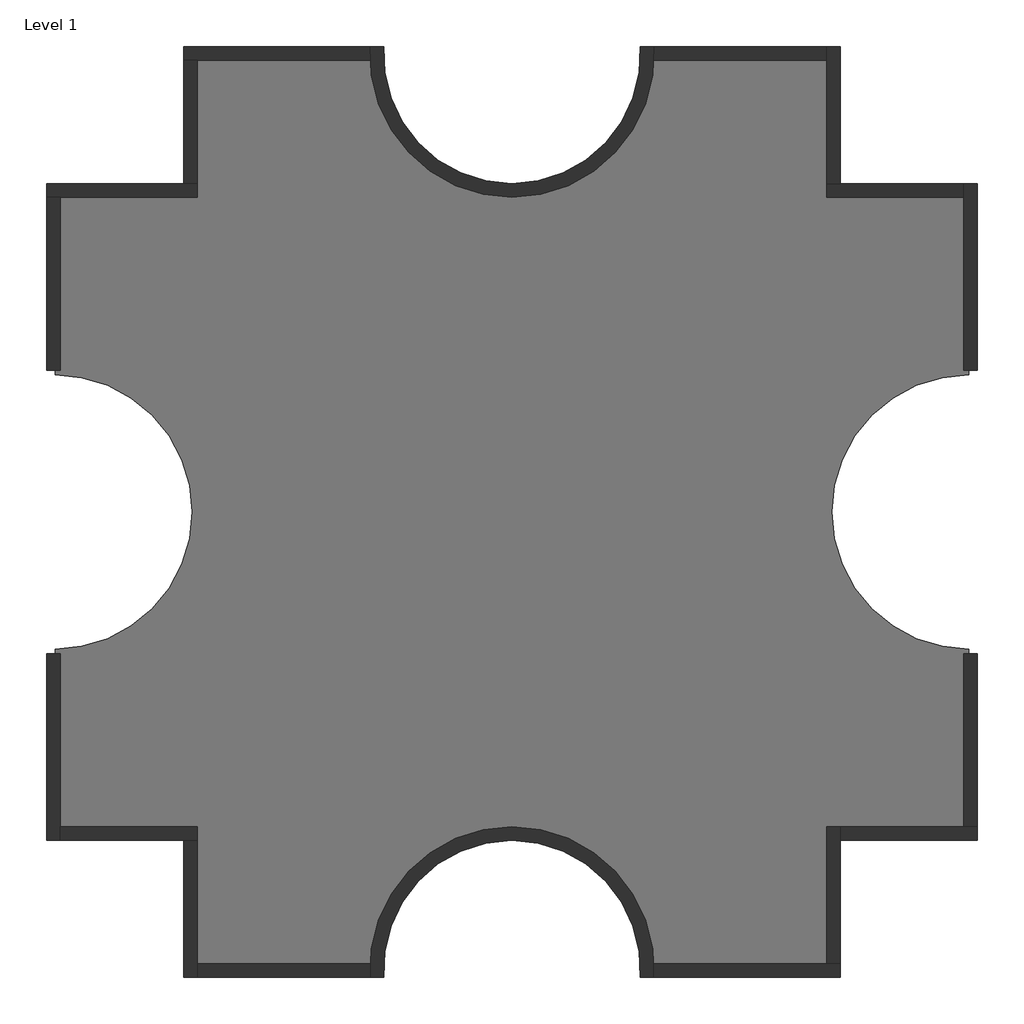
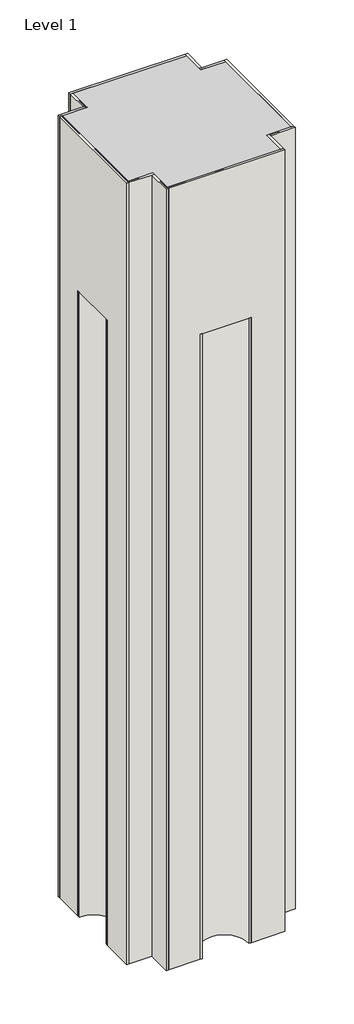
# One storey: 16 walls, 1 proxy.
"""IFC4 building model written with IfcOpenShell, lengths in millimetres."""

from ifc_helpers import new_model, si_unit, frame, origin, origin_with_axes, place, context, project, spatial, polyline, circle_curve, outline, extrude, faceted_brep, element, save
from ifc_brep_helpers import plane_surface, cylinder_surface, revolved_surface, advanced_brep

model = new_model("IFC4")

# Units and contexts
model_context = context("Model", 3, world=origin())
ifc_project = project(units=[si_unit("LENGTHUNIT", "METRE", prefix="MILLI")], contexts=[model_context])

# Site, building, storey
site = spatial("IfcSite", under=ifc_project)
building = spatial("IfcBuilding", under=site)
storey = spatial("IfcBuildingStorey", under=building, Name="Level 1", Elevation=0.0)

# Proxy
placement = place(None, origin())
element("IfcBuildingElementProxy", 1, Name="Mass 1 : Mass 1", ObjectType="Mass 1 : Mass 1", at=placement, inside=storey, context=model_context, shape_type="AdvancedBrep", body=[
    advanced_brep(
    [(-7150.3629456, 4479.6634547, 152400.0), (-11722.3629456, 4479.6634547, 152400.0), (-11722.3629456, -16856.3365453, 152400.0), (-7150.3629456, -16856.3365453, 152400.0), (-7150.3629456, -21428.3365453, 152400.0), (14185.6370544, -21428.3365453, 152400.0), (14185.6370544, -16856.3365453, 152400.0), (18757.6370544, -16856.3365453, 152400.0), (18757.6370544, 4479.6634547, 152400.0), (14185.6370544, 4479.6634547, 152400.0), (14185.6370544, 9051.6634547, 152400.0), (-7150.3629456, 9051.6634547, 152400.0), (-7150.3629456, 4479.6634547, 0.0), (-7150.3629456, 9051.6634547, 0.0), (-1054.3629456, 9051.6634547, 0.0), (8089.6370544, 9051.6634547, 0.0), (14185.6370544, 9051.6634547, 0.0), (14185.6370544, 4479.6634547, 0.0), (18757.6370544, 4479.6634547, 0.0), (18757.6370544, -1616.3365453, 0.0), (18757.6370544, -10760.3365453, 0.0), (18757.6370544, -16856.3365453, 0.0), (14185.6370544, -16856.3365453, 0.0), (14185.6370544, -21428.3365453, 0.0), (8089.6370544, -21428.3365453, 0.0), (-1054.3629456, -21428.3365453, 0.0), (-7150.3629456, -21428.3365453, 0.0), (-7150.3629456, -16856.3365453, 0.0), (-11722.3629456, -16856.3365453, 0.0), (-11722.3629456, -10760.3365453, 0.0), (-11722.3629456, -1616.3365453, 0.0), (-11722.3629456, 4479.6634547, 0.0), (-11722.3629456, -1616.3365453, 121920.0), (-11722.3629456, -10760.3365453, 121920.0), (-1054.3629456, -21428.3365453, 121920.0), (8089.6370544, -21428.3365453, 121920.0), (18757.6370544, -10760.3365453, 121920.0), (18757.6370544, -1616.3365453, 121920.0), (8089.6370544, 9051.6634547, 121920.0), (-1054.3629456, 9051.6634547, 121920.0)],
    [
        (0, 1),
        (1, 2),
        (2, 3),
        (3, 4),
        (4, 5),
        (5, 6),
        (6, 7),
        (7, 8),
        (8, 9),
        (9, 10),
        (10, 11),
        (11, 0),
        (12, 13),
        (13, 14),
        (14, 15, circle_curve(frame((3517.6370544, 9051.6634547, 0.0), z_axis=(0.0, 0.0, 1.0), x_axis=(0.0, 1.0, 0.0)), 4572.0)),
        (15, 16),
        (16, 17),
        (17, 18),
        (18, 19),
        (19, 20, circle_curve(frame((18757.6370544, -6188.3365453, 0.0), z_axis=(0.0, 0.0, 1.0), x_axis=(1.0, 0.0, 0.0)), 4572.0)),
        (20, 21),
        (21, 22),
        (22, 23),
        (23, 24),
        (24, 25, circle_curve(frame((3517.6370544, -21428.3365453, 0.0), z_axis=(0.0, 0.0, 1.0), x_axis=(0.0, -1.0, 0.0)), 4572.0)),
        (25, 26),
        (26, 27),
        (27, 28),
        (28, 29),
        (29, 30, circle_curve(frame((-11722.3629456, -6188.3365453, 0.0), z_axis=(0.0, 0.0, 1.0), x_axis=(-1.0, 0.0, 0.0)), 4572.0)),
        (30, 31),
        (31, 12),
        (0, 12),
        (31, 1),
        (30, 32),
        (32, 33),
        (33, 29),
        (28, 2),
        (27, 3),
        (26, 4),
        (25, 34),
        (34, 35),
        (35, 24),
        (23, 5),
        (22, 6),
        (21, 7),
        (20, 36),
        (36, 37),
        (37, 19),
        (18, 8),
        (17, 9),
        (16, 10),
        (15, 38),
        (38, 39),
        (39, 14),
        (13, 11),
        (36, 37, circle_curve(frame((18757.6370544, -6188.3365453, 121920.0), z_axis=(0.0, 0.0, -1.0), x_axis=(1.0, 0.0, 0.0)), 4572.0)),
        (34, 35, circle_curve(frame((3517.6370544, -21428.3365453, 121920.0), z_axis=(0.0, 0.0, -1.0), x_axis=(0.0, -1.0, 0.0)), 4572.0)),
        (38, 39, circle_curve(frame((3517.6370544, 9051.6634547, 121920.0), z_axis=(0.0, 0.0, -1.0), x_axis=(0.0, 1.0, 0.0)), 4572.0)),
        (32, 33, circle_curve(frame((-11722.3629456, -6188.3365453, 121920.0), z_axis=(0.0, 0.0, -1.0), x_axis=(-1.0, 0.0, 0.0)), 4572.0)),
    ],
    [
        plane_surface(frame((-11722.3629456, 4479.6634547, 152400.0), z_axis=(0.0, 0.0, 1.0), x_axis=(-1.0, 0.0, 0.0))),
        plane_surface(frame((-11722.3629456, 4479.6634547, 0.0), z_axis=(0.0, 0.0, -1.0), x_axis=(1.0, 0.0, 0.0))),
        plane_surface(frame((-7150.3629456, 4479.6634547, 152400.0), z_axis=(0.0, 1.0, 0.0), x_axis=(0.0, 0.0, -1.0))),
        plane_surface(frame((-11722.3629456, 4479.6634547, 152400.0), z_axis=(-1.0, 0.0, 0.0), x_axis=(0.0, 0.0, -1.0))),
        plane_surface(frame((-11722.3629456, -16856.3365453, 152400.0), z_axis=(0.0, -1.0, 0.0), x_axis=(0.0, 0.0, -1.0))),
        plane_surface(frame((-7150.3629456, -16856.3365453, 152400.0), z_axis=(-1.0, 0.0, 0.0), x_axis=(0.0, 0.0, -1.0))),
        plane_surface(frame((-7150.3629456, -21428.3365453, 152400.0), z_axis=(0.0, -1.0, 0.0), x_axis=(0.0, 0.0, -1.0))),
        plane_surface(frame((14185.6370544, -21428.3365453, 152400.0), z_axis=(1.0, 0.0, 0.0), x_axis=(0.0, 0.0, -1.0))),
        plane_surface(frame((14185.6370544, -16856.3365453, 152400.0), z_axis=(0.0, -1.0, 0.0), x_axis=(0.0, 0.0, -1.0))),
        plane_surface(frame((18757.6370544, -16856.3365453, 152400.0), z_axis=(1.0, 0.0, 0.0), x_axis=(0.0, 0.0, -1.0))),
        plane_surface(frame((18757.6370544, 4479.6634547, 152400.0), z_axis=(0.0, 1.0, 0.0), x_axis=(0.0, 0.0, -1.0))),
        plane_surface(frame((14185.6370544, 4479.6634547, 152400.0), z_axis=(1.0, 0.0, 0.0), x_axis=(0.0, 0.0, -1.0))),
        plane_surface(frame((14185.6370544, 9051.6634547, 152400.0), z_axis=(0.0, 1.0, 0.0), x_axis=(0.0, 0.0, -1.0))),
        plane_surface(frame((-7150.3629456, 9051.6634547, 152400.0), z_axis=(-1.0, 0.0, 0.0), x_axis=(0.0, 0.0, -1.0))),
        plane_surface(frame((18757.6370544, -10760.3365453, 121920.0), z_axis=(0.0, 0.0, -1.0), x_axis=(0.0, 1.0, 0.0))),
        revolved_surface(polyline([(23329.6370544, -6188.3365453, 121920.0), (23329.6370544, -6188.3365453, 0.0)]), (18757.6370544, -6188.3365453, 0.0), (0.0, 0.0, 1.0)),
        revolved_surface(polyline([(3517.6370544, -26000.3365453, 121920.0), (3517.6370544, -26000.3365453, 0.0)]), (3517.6370544, -21428.3365453, 0.0), (0.0, 0.0, 1.0)),
        revolved_surface(polyline([(3517.6370544, 13623.6634547, 121920.0), (3517.6370544, 13623.6634547, 0.0)]), (3517.6370544, 9051.6634547, 0.0), (0.0, 0.0, 1.0)),
        revolved_surface(polyline([(-16294.3629456, -6188.3365453, 121920.0), (-16294.3629456, -6188.3365453, 0.0)]), (-11722.3629456, -6188.3365453, 0.0), (0.0, 0.0, 1.0)),
    ],
    [
        (0, [[1, 2, 3, 4, 5, 6, 7, 8, 9, 10, 11, 12]]),
        (1, [[13, 14, 15, 16, 17, 18, 19, 20, 21, 22, 23, 24, 25, 26, 27, 28, 29, 30, 31, 32]]),
        (2, [[-1, 33, -32, 34]]),
        (3, [[-2, -34, -31, 35, 36, 37, -29, 38]]),
        (4, [[-3, -38, -28, 39]]),
        (5, [[-4, -39, -27, 40]]),
        (6, [[-5, -40, -26, 41, 42, 43, -24, 44]]),
        (7, [[-6, -44, -23, 45]]),
        (8, [[-7, -45, -22, 46]]),
        (9, [[-8, -46, -21, 47, 48, 49, -19, 50]]),
        (10, [[-9, -50, -18, 51]]),
        (11, [[-10, -51, -17, 52]]),
        (12, [[-11, -52, -16, 53, 54, 55, -14, 56]]),
        (13, [[-12, -56, -13, -33]]),
        (14, [[57, -48]]),
        (14, [[58, -42]]),
        (14, [[59, -54]]),
        (14, [[60, -36]]),
        (15, [[-57, -47, -20, -49]]),
        (16, [[-58, -41, -25, -43]]),
        (17, [[-59, -53, -15, -55]]),
        (18, [[-60, -35, -30, -37]]),
    ],
),
])

# Walls
element("IfcWall", 2, ObjectType="Exterior - CMU on Mtl. Stud", at=placement, inside=storey, context=model_context, shape_type="Brep", body=[
    faceted_brep([(-6985.2629456, 4768.5884547, 0.0), (-7439.2879456, 4768.5884547, 0.0), (-12011.2879456, 4768.5884547, 0.0), (-12011.2879456, 4768.5884547, 152400.0), (-7439.2879456, 4768.5884547, 152400.0), (-6985.2629456, 4768.5884547, 152400.0), (-6985.2629456, 4314.5634547, 0.0), (-6985.2629456, 4314.5634547, 152400.0), (-11557.2629456, 4314.5634547, 152400.0), (-12011.2879456, 4314.5634547, 152400.0), (-12011.2879456, 4314.5634547, 0.0), (-11557.2629456, 4314.5634547, 0.0)], [[[0, 1, 2, 3, 4, 5]], [[6, 7, 8, 9, 10, 11]], [[2, 1, 0, 6, 11, 10]], [[5, 4, 3, 9, 8, 7]], [[3, 2, 10, 9]], [[0, 5, 7, 6]]]),
])
element("IfcWall", 3, ObjectType="Exterior - CMU on Mtl. Stud", at=placement, inside=storey, context=model_context, shape_type="AdvancedBrep", body=[
    advanced_brep(
    [(-12011.2879456, 4314.5634547, 152400.0), (-12011.2879456, 4314.5634547, 0.0), (-12011.2879456, -1460.0558055, 0.0), (-12011.2879456, -1460.0558055, 121920.0), (-12011.2879456, -1915.0177179, 121920.0), (-12011.2879456, -10461.6553726, 121920.0), (-12011.2879456, -10916.6172851, 121920.0), (-12011.2879456, -10916.6172851, 0.0), (-12011.2879456, -17145.2615453, 0.0), (-12011.2879456, -17145.2615453, 152400.0), (-11557.2629456, 4314.5634547, 152400.0), (-11557.2629456, -16691.2365453, 152400.0), (-11557.2629456, -17145.2615453, 152400.0), (-11557.2629456, -17145.2615453, 0.0), (-11557.2629456, -16691.2365453, 0.0), (-11557.2629456, -10922.5585933, 0.0), (-11557.2629456, -10922.5585933, 121920.0), (-11557.2629456, -1454.1144972, 121920.0), (-11557.2629456, -1454.1144972, 0.0), (-11557.2629456, 4314.5634547, 0.0)],
    [
        (0, 1),
        (1, 2),
        (2, 3),
        (3, 4),
        (4, 5),
        (5, 6),
        (6, 7),
        (7, 8),
        (8, 9),
        (9, 0),
        (10, 11),
        (11, 12),
        (12, 13),
        (13, 14),
        (14, 15),
        (15, 16),
        (16, 17),
        (17, 18),
        (18, 19),
        (19, 10),
        (1, 19),
        (18, 2, circle_curve(frame((-11722.3629456, -6188.3365453, 0.0), z_axis=(0.0, 0.0, 1.0), x_axis=(-1.0, 0.0, 0.0)), 4737.1)),
        (3, 17, circle_curve(frame((-11722.3629456, -6188.3365453, 121920.0), z_axis=(0.0, 0.0, -1.0), x_axis=(-1.0, 0.0, 0.0)), 4737.1)),
        (16, 6, circle_curve(frame((-11722.3629456, -6188.3365453, 121920.0), z_axis=(0.0, 0.0, -1.0), x_axis=(-1.0, 0.0, 0.0)), 4737.1)),
        (7, 15, circle_curve(frame((-11722.3629456, -6188.3365453, 0.0), z_axis=(0.0, 0.0, 1.0), x_axis=(-1.0, 0.0, 0.0)), 4737.1)),
        (13, 8),
        (9, 12),
        (10, 0),
    ],
    [
        plane_surface(frame((-12011.2879456, 4541.5759547, 152400.0), z_axis=(-1.0, 0.0, 0.0), x_axis=(0.0, 0.0, -1.0))),
        plane_surface(frame((-11557.2629456, 4541.5759547, 152400.0), z_axis=(1.0, 0.0, 0.0), x_axis=(0.0, 0.0, 1.0))),
        plane_surface(frame((-12011.2879456, 4541.5759547, 0.0), z_axis=(0.0, 0.0, -1.0), x_axis=(1.0, 0.0, 0.0))),
        plane_surface(frame((-12011.2879456, -1678.6740191, 121920.0), z_axis=(0.0, 0.0, -1.0), x_axis=(1.0, 0.0, 0.0))),
        plane_surface(frame((-12011.2879456, -10697.9990714, 0.0), z_axis=(0.0, 0.0, -1.0), x_axis=(1.0, 0.0, 0.0))),
        plane_surface(frame((-12011.2879456, -16918.2490453, 152400.0), z_axis=(0.0, 0.0, 1.0), x_axis=(1.0, 0.0, 0.0))),
        plane_surface(frame((-11722.3629456, -17145.2615453, 0.0), z_axis=(0.0, -1.0, 0.0), x_axis=(1.0, 0.0, 0.0))),
        plane_surface(frame((-7150.3629456, 4314.5634547, 0.0), z_axis=(0.0, 1.0, 0.0), x_axis=(1.0, 0.0, 0.0))),
        revolved_surface(polyline([(-16459.4629456, -6188.3365453, 121920.0), (-16459.4629456, -6188.3365453, 0.0)]), (-11722.3629456, -6188.3365453, 0.0), (0.0, 0.0, 1.0)),
    ],
    [
        (0, [[1, 2, 3, 4, 5, 6, 7, 8, 9, 10]]),
        (1, [[11, 12, 13, 14, 15, 16, 17, 18, 19, 20]]),
        (2, [[-2, 21, -19, 22]]),
        (3, [[-6, -5, -4, 23, -17, 24]]),
        (4, [[-8, 25, -15, -14, 26]]),
        (5, [[-10, 27, -12, -11, 28]]),
        (6, [[-9, -26, -13, -27]]),
        (7, [[-1, -28, -20, -21]]),
        (8, [[-3, -22, -18, -23]]),
        (8, [[-7, -24, -16, -25]]),
    ],
),
])
element("IfcWall", 4, ObjectType="Exterior - CMU on Mtl. Stud", at=placement, inside=storey, context=model_context, shape_type="Brep", body=[
    faceted_brep([(-11557.2629456, -17145.2615453, 0.0), (-7439.2879456, -17145.2615453, 0.0), (-6985.2629456, -17145.2615453, 0.0), (-6985.2629456, -17145.2615453, 152400.0), (-7439.2879456, -17145.2615453, 152400.0), (-11557.2629456, -17145.2615453, 152400.0), (-11557.2629456, -16691.2365453, 0.0), (-11557.2629456, -16691.2365453, 152400.0), (-6985.2629456, -16691.2365453, 152400.0), (-6985.2629456, -16691.2365453, 0.0)], [[[0, 1, 2, 3, 4, 5]], [[6, 7, 8, 9]], [[2, 1, 0, 6, 9]], [[5, 4, 3, 8, 7]], [[3, 2, 9, 8]], [[0, 5, 7, 6]]]),
])
element("IfcWall", 5, ObjectType="Exterior - CMU on Mtl. Stud", at=placement, inside=storey, context=model_context, shape_type="Brep", body=[
    faceted_brep([(-7439.2879456, -17145.2615453, 0.0), (-7439.2879456, -21717.2615453, 0.0), (-7439.2879456, -21717.2615453, 152400.0), (-7439.2879456, -17145.2615453, 152400.0), (-6985.2629456, -17145.2615453, 0.0), (-6985.2629456, -17145.2615453, 152400.0), (-6985.2629456, -21263.2365453, 152400.0), (-6985.2629456, -21717.2615453, 152400.0), (-6985.2629456, -21717.2615453, 0.0), (-6985.2629456, -21263.2365453, 0.0)], [[[0, 1, 2, 3]], [[4, 5, 6, 7, 8, 9]], [[1, 0, 4, 9, 8]], [[3, 2, 7, 6, 5]], [[2, 1, 8, 7]], [[0, 3, 5, 4]]]),
])
element("IfcWall", 6, ObjectType="Exterior - CMU on Mtl. Stud", at=placement, inside=storey, context=model_context, shape_type="AdvancedBrep", body=[
    advanced_brep(
    [(-6985.2629456, -21717.2615453, 152400.0), (-6985.2629456, -21717.2615453, 0.0), (-1210.6436854, -21717.2615453, 0.0), (-1210.6436854, -21717.2615453, 121920.0), (-755.681773, -21717.2615453, 121920.0), (7790.9558817, -21717.2615453, 121920.0), (8245.9177942, -21717.2615453, 121920.0), (8245.9177942, -21717.2615453, 0.0), (14474.5620544, -21717.2615453, 0.0), (14474.5620544, -21717.2615453, 152400.0), (-6985.2629456, -21263.2365453, 152400.0), (14020.5370544, -21263.2365453, 152400.0), (14474.5620544, -21263.2365453, 152400.0), (14474.5620544, -21263.2365453, 0.0), (14020.5370544, -21263.2365453, 0.0), (8251.8591024, -21263.2365453, 0.0), (8251.8591024, -21263.2365453, 121920.0), (-1216.5849937, -21263.2365453, 121920.0), (-1216.5849937, -21263.2365453, 0.0), (-6985.2629456, -21263.2365453, 0.0)],
    [
        (0, 1),
        (1, 2),
        (2, 3),
        (3, 4),
        (4, 5),
        (5, 6),
        (6, 7),
        (7, 8),
        (8, 9),
        (9, 0),
        (10, 11),
        (11, 12),
        (12, 13),
        (13, 14),
        (14, 15),
        (15, 16),
        (16, 17),
        (17, 18),
        (18, 19),
        (19, 10),
        (1, 19),
        (18, 2, circle_curve(frame((3517.6370544, -21428.3365453, 0.0), z_axis=(0.0, 0.0, 1.0), x_axis=(0.0, -1.0, 0.0)), 4737.1)),
        (3, 17, circle_curve(frame((3517.6370544, -21428.3365453, 121920.0), z_axis=(0.0, 0.0, -1.0), x_axis=(0.0, -1.0, 0.0)), 4737.1)),
        (16, 6, circle_curve(frame((3517.6370544, -21428.3365453, 121920.0), z_axis=(0.0, 0.0, -1.0), x_axis=(0.0, -1.0, 0.0)), 4737.1)),
        (7, 15, circle_curve(frame((3517.6370544, -21428.3365453, 0.0), z_axis=(0.0, 0.0, 1.0), x_axis=(0.0, -1.0, 0.0)), 4737.1)),
        (13, 8),
        (9, 12),
        (10, 0),
    ],
    [
        plane_surface(frame((-7212.2754456, -21717.2615453, 152400.0), z_axis=(0.0, -1.0, 0.0), x_axis=(0.0, 0.0, -1.0))),
        plane_surface(frame((-7212.2754456, -21263.2365453, 152400.0), z_axis=(0.0, 1.0, 0.0), x_axis=(0.0, 0.0, 1.0))),
        plane_surface(frame((-7212.2754456, -21717.2615453, 0.0), z_axis=(0.0, 0.0, -1.0), x_axis=(0.0, 1.0, 0.0))),
        plane_surface(frame((-992.0254718, -21717.2615453, 121920.0), z_axis=(0.0, 0.0, -1.0), x_axis=(0.0, 1.0, 0.0))),
        plane_surface(frame((8027.2995805, -21717.2615453, 0.0), z_axis=(0.0, 0.0, -1.0), x_axis=(0.0, 1.0, 0.0))),
        plane_surface(frame((14247.5495544, -21717.2615453, 152400.0), z_axis=(0.0, 0.0, 1.0), x_axis=(0.0, 1.0, 0.0))),
        plane_surface(frame((14474.5620544, -21428.3365453, 0.0), z_axis=(1.0, 0.0, 0.0), x_axis=(0.0, 1.0, 0.0))),
        plane_surface(frame((-6985.2629456, -16856.3365453, 0.0), z_axis=(-1.0, 0.0, 0.0), x_axis=(0.0, 1.0, 0.0))),
        revolved_surface(polyline([(3517.6370544, -26165.4365453, 121920.0), (3517.6370544, -26165.4365453, 0.0)]), (3517.6370544, -21428.3365453, 0.0), (0.0, 0.0, 1.0)),
    ],
    [
        (0, [[1, 2, 3, 4, 5, 6, 7, 8, 9, 10]]),
        (1, [[11, 12, 13, 14, 15, 16, 17, 18, 19, 20]]),
        (2, [[-2, 21, -19, 22]]),
        (3, [[-6, -5, -4, 23, -17, 24]]),
        (4, [[-8, 25, -15, -14, 26]]),
        (5, [[-10, 27, -12, -11, 28]]),
        (6, [[-9, -26, -13, -27]]),
        (7, [[-1, -28, -20, -21]]),
        (8, [[-3, -22, -18, -23]]),
        (8, [[-7, -24, -16, -25]]),
    ],
),
])
element("IfcWall", 7, ObjectType="Exterior - CMU on Mtl. Stud", at=placement, inside=storey, context=model_context, shape_type="Brep", body=[
    faceted_brep([(14474.5620544, -21263.2365453, 0.0), (14474.5620544, -17145.2615453, 0.0), (14474.5620544, -16691.2365453, 0.0), (14474.5620544, -16691.2365453, 152400.0), (14474.5620544, -17145.2615453, 152400.0), (14474.5620544, -21263.2365453, 152400.0), (14020.5370544, -21263.2365453, 0.0), (14020.5370544, -21263.2365453, 152400.0), (14020.5370544, -16691.2365453, 152400.0), (14020.5370544, -16691.2365453, 0.0)], [[[0, 1, 2, 3, 4, 5]], [[6, 7, 8, 9]], [[2, 1, 0, 6, 9]], [[5, 4, 3, 8, 7]], [[3, 2, 9, 8]], [[0, 5, 7, 6]]]),
])
element("IfcWall", 8, ObjectType="Exterior - CMU on Mtl. Stud", at=placement, inside=storey, context=model_context, shape_type="Brep", body=[
    faceted_brep([(14474.5620544, -17145.2615453, 0.0), (19046.5620544, -17145.2615453, 0.0), (19046.5620544, -17145.2615453, 152400.0), (14474.5620544, -17145.2615453, 152400.0), (14474.5620544, -16691.2365453, 0.0), (14474.5620544, -16691.2365453, 152400.0), (18592.5370544, -16691.2365453, 152400.0), (19046.5620544, -16691.2365453, 152400.0), (19046.5620544, -16691.2365453, 0.0), (18592.5370544, -16691.2365453, 0.0)], [[[0, 1, 2, 3]], [[4, 5, 6, 7, 8, 9]], [[1, 0, 4, 9, 8]], [[3, 2, 7, 6, 5]], [[2, 1, 8, 7]], [[0, 3, 5, 4]]]),
])
element("IfcWall", 9, ObjectType="Exterior - CMU on Mtl. Stud", at=placement, inside=storey, context=model_context, shape_type="AdvancedBrep", body=[
    advanced_brep(
    [(19046.5620544, -16691.2365453, 152400.0), (19046.5620544, -16691.2365453, 0.0), (19046.5620544, -10916.6172851, 0.0), (19046.5620544, -10916.6172851, 121920.0), (19046.5620544, -10461.6553726, 121920.0), (19046.5620544, -1915.0177179, 121920.0), (19046.5620544, -1460.0558055, 121920.0), (19046.5620544, -1460.0558055, 0.0), (19046.5620544, 4768.5884547, 0.0), (19046.5620544, 4768.5884547, 152400.0), (18592.5370544, -16691.2365453, 152400.0), (18592.5370544, 4314.5634547, 152400.0), (18592.5370544, 4768.5884547, 152400.0), (18592.5370544, 4768.5884547, 0.0), (18592.5370544, 4314.5634547, 0.0), (18592.5370544, -1454.1144972, 0.0), (18592.5370544, -1454.1144972, 121920.0), (18592.5370544, -10922.5585933, 121920.0), (18592.5370544, -10922.5585933, 0.0), (18592.5370544, -16691.2365453, 0.0)],
    [
        (0, 1),
        (1, 2),
        (2, 3),
        (3, 4),
        (4, 5),
        (5, 6),
        (6, 7),
        (7, 8),
        (8, 9),
        (9, 0),
        (10, 11),
        (11, 12),
        (12, 13),
        (13, 14),
        (14, 15),
        (15, 16),
        (16, 17),
        (17, 18),
        (18, 19),
        (19, 10),
        (1, 19),
        (18, 2, circle_curve(frame((18757.6370544, -6188.3365453, 0.0), z_axis=(0.0, 0.0, 1.0), x_axis=(1.0, 0.0, 0.0)), 4737.1)),
        (3, 17, circle_curve(frame((18757.6370544, -6188.3365453, 121920.0), z_axis=(0.0, 0.0, -1.0), x_axis=(1.0, 0.0, 0.0)), 4737.1)),
        (16, 6, circle_curve(frame((18757.6370544, -6188.3365453, 121920.0), z_axis=(0.0, 0.0, -1.0), x_axis=(1.0, 0.0, 0.0)), 4737.1)),
        (7, 15, circle_curve(frame((18757.6370544, -6188.3365453, 0.0), z_axis=(0.0, 0.0, 1.0), x_axis=(1.0, 0.0, 0.0)), 4737.1)),
        (13, 8),
        (9, 12),
        (10, 0),
    ],
    [
        plane_surface(frame((19046.5620544, -16918.2490453, 152400.0), z_axis=(1.0, 0.0, 0.0), x_axis=(0.0, 0.0, -1.0))),
        plane_surface(frame((18592.5370544, -16918.2490453, 152400.0), z_axis=(-1.0, 0.0, 0.0), x_axis=(0.0, 0.0, 1.0))),
        plane_surface(frame((19046.5620544, -16918.2490453, 0.0), z_axis=(0.0, 0.0, -1.0), x_axis=(-1.0, 0.0, 0.0))),
        plane_surface(frame((19046.5620544, -10697.9990714, 121920.0), z_axis=(0.0, 0.0, -1.0), x_axis=(-1.0, 0.0, 0.0))),
        plane_surface(frame((19046.5620544, -1678.6740191, 0.0), z_axis=(0.0, 0.0, -1.0), x_axis=(-1.0, 0.0, 0.0))),
        plane_surface(frame((19046.5620544, 4541.5759547, 152400.0), z_axis=(0.0, 0.0, 1.0), x_axis=(-1.0, 0.0, 0.0))),
        plane_surface(frame((18757.6370544, 4768.5884547, 0.0), z_axis=(0.0, 1.0, 0.0), x_axis=(-1.0, 0.0, 0.0))),
        plane_surface(frame((14185.6370544, -16691.2365453, 0.0), z_axis=(0.0, -1.0, 0.0), x_axis=(-1.0, 0.0, 0.0))),
        revolved_surface(polyline([(23494.7370544, -6188.3365453, 121920.0), (23494.7370544, -6188.3365453, 0.0)]), (18757.6370544, -6188.3365453, 0.0), (0.0, 0.0, 1.0)),
    ],
    [
        (0, [[1, 2, 3, 4, 5, 6, 7, 8, 9, 10]]),
        (1, [[11, 12, 13, 14, 15, 16, 17, 18, 19, 20]]),
        (2, [[-2, 21, -19, 22]]),
        (3, [[-6, -5, -4, 23, -17, 24]]),
        (4, [[-8, 25, -15, -14, 26]]),
        (5, [[-10, 27, -12, -11, 28]]),
        (6, [[-9, -26, -13, -27]]),
        (7, [[-1, -28, -20, -21]]),
        (8, [[-3, -22, -18, -23]]),
        (8, [[-7, -24, -16, -25]]),
    ],
),
])
element("IfcWall", 10, ObjectType="Exterior - CMU on Mtl. Stud", at=placement, inside=storey, context=model_context, shape_type="Brep", body=[
    faceted_brep([(18592.5370544, 4768.5884547, 0.0), (14474.5620544, 4768.5884547, 0.0), (14020.5370544, 4768.5884547, 0.0), (14020.5370544, 4768.5884547, 152400.0), (14474.5620544, 4768.5884547, 152400.0), (18592.5370544, 4768.5884547, 152400.0), (18592.5370544, 4314.5634547, 0.0), (18592.5370544, 4314.5634547, 152400.0), (14020.5370544, 4314.5634547, 152400.0), (14020.5370544, 4314.5634547, 0.0)], [[[0, 1, 2, 3, 4, 5]], [[6, 7, 8, 9]], [[2, 1, 0, 6, 9]], [[5, 4, 3, 8, 7]], [[3, 2, 9, 8]], [[0, 5, 7, 6]]]),
])
element("IfcWall", 11, ObjectType="Exterior - CMU on Mtl. Stud", at=placement, inside=storey, context=model_context, shape_type="Brep", body=[
    faceted_brep([(14474.5620544, 4768.5884547, 0.0), (14474.5620544, 9340.5884547, 0.0), (14474.5620544, 9340.5884547, 152400.0), (14474.5620544, 4768.5884547, 152400.0), (14020.5370544, 4768.5884547, 0.0), (14020.5370544, 4768.5884547, 152400.0), (14020.5370544, 8886.5634547, 152400.0), (14020.5370544, 9340.5884547, 152400.0), (14020.5370544, 9340.5884547, 0.0), (14020.5370544, 8886.5634547, 0.0)], [[[0, 1, 2, 3]], [[4, 5, 6, 7, 8, 9]], [[1, 0, 4, 9, 8]], [[3, 2, 7, 6, 5]], [[2, 1, 8, 7]], [[0, 3, 5, 4]]]),
])
element("IfcWall", 12, ObjectType="Exterior - CMU on Mtl. Stud", at=placement, inside=storey, context=model_context, shape_type="AdvancedBrep", body=[
    advanced_brep(
    [(14020.5370544, 9340.5884547, 152400.0), (14020.5370544, 9340.5884547, 0.0), (8245.9177942, 9340.5884547, 0.0), (8245.9177942, 9340.5884547, 121920.0), (7790.9558817, 9340.5884547, 121920.0), (-755.681773, 9340.5884547, 121920.0), (-1210.6436854, 9340.5884547, 121920.0), (-1210.6436854, 9340.5884547, 0.0), (-7439.2879456, 9340.5884547, 0.0), (-7439.2879456, 9340.5884547, 152400.0), (14020.5370544, 8886.5634547, 152400.0), (-6985.2629456, 8886.5634547, 152400.0), (-7439.2879456, 8886.5634547, 152400.0), (-7439.2879456, 8886.5634547, 0.0), (-6985.2629456, 8886.5634547, 0.0), (-1216.5849937, 8886.5634547, 0.0), (-1216.5849937, 8886.5634547, 121920.0), (8251.8591024, 8886.5634547, 121920.0), (8251.8591024, 8886.5634547, 0.0), (14020.5370544, 8886.5634547, 0.0)],
    [
        (0, 1),
        (1, 2),
        (2, 3),
        (3, 4),
        (4, 5),
        (5, 6),
        (6, 7),
        (7, 8),
        (8, 9),
        (9, 0),
        (10, 11),
        (11, 12),
        (12, 13),
        (13, 14),
        (14, 15),
        (15, 16),
        (16, 17),
        (17, 18),
        (18, 19),
        (19, 10),
        (1, 19),
        (18, 2, circle_curve(frame((3517.6370544, 9051.6634547, 0.0), z_axis=(0.0, 0.0, 1.0), x_axis=(0.0, 1.0, 0.0)), 4737.1)),
        (3, 17, circle_curve(frame((3517.6370544, 9051.6634547, 121920.0), z_axis=(0.0, 0.0, -1.0), x_axis=(0.0, 1.0, 0.0)), 4737.1)),
        (16, 6, circle_curve(frame((3517.6370544, 9051.6634547, 121920.0), z_axis=(0.0, 0.0, -1.0), x_axis=(0.0, 1.0, 0.0)), 4737.1)),
        (7, 15, circle_curve(frame((3517.6370544, 9051.6634547, 0.0), z_axis=(0.0, 0.0, 1.0), x_axis=(0.0, 1.0, 0.0)), 4737.1)),
        (13, 8),
        (9, 12),
        (10, 0),
    ],
    [
        plane_surface(frame((14247.5495544, 9340.5884547, 152400.0), z_axis=(0.0, 1.0, 0.0), x_axis=(0.0, 0.0, -1.0))),
        plane_surface(frame((14247.5495544, 8886.5634547, 152400.0), z_axis=(0.0, -1.0, 0.0), x_axis=(0.0, 0.0, 1.0))),
        plane_surface(frame((14247.5495544, 9340.5884547, 0.0), z_axis=(0.0, 0.0, -1.0), x_axis=(0.0, -1.0, 0.0))),
        plane_surface(frame((8027.2995805, 9340.5884547, 121920.0), z_axis=(0.0, 0.0, -1.0), x_axis=(0.0, -1.0, 0.0))),
        plane_surface(frame((-992.0254718, 9340.5884547, 0.0), z_axis=(0.0, 0.0, -1.0), x_axis=(0.0, -1.0, 0.0))),
        plane_surface(frame((-7212.2754456, 9340.5884547, 152400.0), z_axis=(0.0, 0.0, 1.0), x_axis=(0.0, -1.0, 0.0))),
        plane_surface(frame((-7439.2879456, 9051.6634547, 0.0), z_axis=(-1.0, 0.0, 0.0), x_axis=(0.0, -1.0, 0.0))),
        plane_surface(frame((14020.5370544, 4479.6634547, 0.0), z_axis=(1.0, 0.0, 0.0), x_axis=(0.0, -1.0, 0.0))),
        revolved_surface(polyline([(3517.6370544, 13788.7634547, 121920.0), (3517.6370544, 13788.7634547, 0.0)]), (3517.6370544, 9051.6634547, 0.0), (0.0, 0.0, 1.0)),
    ],
    [
        (0, [[1, 2, 3, 4, 5, 6, 7, 8, 9, 10]]),
        (1, [[11, 12, 13, 14, 15, 16, 17, 18, 19, 20]]),
        (2, [[-2, 21, -19, 22]]),
        (3, [[-6, -5, -4, 23, -17, 24]]),
        (4, [[-8, 25, -15, -14, 26]]),
        (5, [[-10, 27, -12, -11, 28]]),
        (6, [[-9, -26, -13, -27]]),
        (7, [[-1, -28, -20, -21]]),
        (8, [[-3, -22, -18, -23]]),
        (8, [[-7, -24, -16, -25]]),
    ],
),
])
element("IfcWall", 13, ObjectType="Exterior - CMU on Mtl. Stud", at=placement, inside=storey, context=model_context, shape_type="SweptSolid", body=[
    extrude(outline(polyline([(-7439.2879456, 4768.5884547), (-7439.2879456, 8886.5634547), (-6985.2629456, 8886.5634547), (-6985.2629456, 4768.5884547), (-7439.2879456, 4768.5884547)])), origin_with_axes(), (0.0, 0.0, 1.0), 152400.0),
])
element("IfcWall", 14, ObjectType="Exterior - CMU on Mtl. Stud", at=placement, inside=storey, context=model_context, shape_type="AdvancedBrep", body=[
    advanced_brep(
    [(19046.5620544, -10461.6553726, 121920.0), (19046.5620544, -1915.0177179, 121920.0), (19046.5620544, -1460.0558055, 121920.0), (18592.5272967, -1454.1150433, 121920.0), (18592.5271824, -10922.5581076, 121920.0), (19046.5620544, -10916.6172851, 121920.0), (19046.5620544, -10461.6553726, 0.0), (19046.5620544, -10916.6172851, 0.0), (18592.5271824, -10922.5581076, 0.0), (18592.5272967, -1454.1150433, 0.0), (19046.5620544, -1460.0558055, 0.0), (19046.5620544, -1915.0177179, 0.0)],
    [
        (0, 1, circle_curve(frame((18757.6370544, -6188.3365453, 121920.0), z_axis=(0.0, 0.0, -1.0), x_axis=(1.0, 0.0, 0.0)), 4283.075)),
        (1, 2),
        (2, 3, circle_curve(frame((18757.6370544, -6188.3365453, 121920.0), z_axis=(0.0, 0.0, 1.0), x_axis=(1.0, 0.0, 0.0)), 4737.1)),
        (3, 4, circle_curve(frame((18757.6370544, -6188.3365453, 121920.0), z_axis=(0.0, 0.0, 1.0), x_axis=(1.0, 0.0, 0.0)), 4737.0997944)),
        (4, 5, circle_curve(frame((18757.6370544, -6188.3365453, 121920.0), z_axis=(0.0, 0.0, 1.0), x_axis=(1.0, 0.0, 0.0)), 4737.0998587)),
        (5, 0),
        (6, 7),
        (7, 8, circle_curve(frame((18757.6370544, -6188.3365453, 0.0), z_axis=(0.0, 0.0, -1.0), x_axis=(1.0, 0.0, 0.0)), 4737.1)),
        (8, 9, circle_curve(frame((18757.6370544, -6188.3365453, 0.0), z_axis=(0.0, 0.0, -1.0), x_axis=(1.0, 0.0, 0.0)), 4737.0998587)),
        (9, 10, circle_curve(frame((18757.6370544, -6188.3365453, 0.0), z_axis=(0.0, 0.0, -1.0), x_axis=(1.0, 0.0, 0.0)), 4737.0997944)),
        (10, 11),
        (11, 6, circle_curve(frame((18757.6370544, -6188.3365453, 0.0), z_axis=(0.0, 0.0, 1.0), x_axis=(1.0, 0.0, 0.0)), 4283.075)),
        (0, 6),
        (11, 1),
        (2, 10),
        (7, 5),
    ],
    [
        plane_surface(frame((23040.7120544, -6188.3365453, 121920.0), z_axis=(0.0, 0.0, 1.0), x_axis=(0.0, -1.0, 0.0))),
        plane_surface(frame((23040.7120544, -6188.3365453, 0.0), z_axis=(0.0, 0.0, -1.0), x_axis=(0.0, 1.0, 0.0))),
        revolved_surface(polyline([(23040.7120544, -6188.3365453, 0.0), (23040.7120544, -6188.3365453, 121920.0)]), (18757.6370544, -6188.3365453, 0.0), (0.0, 0.0, -1.0)),
        cylinder_surface(frame((18757.6370544, -6188.3365453, 0.0), z_axis=(0.0, 0.0, 1.0), x_axis=(1.0, 0.0, 0.0)), 4737.1),
        plane_surface(frame((19046.5620544, -16918.2490453, 152400.0), z_axis=(1.0, 0.0, 0.0), x_axis=(0.0, 0.0, -1.0))),
    ],
    [
        (0, [[1, 2, 3, 4, 5, 6]]),
        (1, [[7, 8, 9, 10, 11, 12]]),
        (2, [[-1, 13, -12, 14]]),
        (3, [[-5, -4, -3, 15, -10, -9, -8, 16]]),
        (4, [[-6, -16, -7, -13]]),
        (4, [[-2, -14, -11, -15]]),
    ],
),
])
element("IfcWall", 15, ObjectType="Exterior - CMU on Mtl. Stud", at=placement, inside=storey, context=model_context, shape_type="AdvancedBrep", body=[
    advanced_brep(
    [(-755.681773, -21717.2615453, 121920.0), (7790.9558817, -21717.2615453, 121920.0), (8245.9177942, -21717.2615453, 121920.0), (8251.8585564, -21263.2267876, 121920.0), (-1216.584508, -21263.2266733, 121920.0), (-1210.6436854, -21717.2615453, 121920.0), (-755.681773, -21717.2615453, 0.0), (-1210.6436854, -21717.2615453, 0.0), (-1216.584508, -21263.2266733, 0.0), (8251.8585564, -21263.2267876, 0.0), (8245.9177942, -21717.2615453, 0.0), (7790.9558817, -21717.2615453, 0.0)],
    [
        (0, 1, circle_curve(frame((3517.6370544, -21428.3365453, 121920.0), z_axis=(0.0, 0.0, -1.0), x_axis=(0.0, -1.0, 0.0)), 4283.075)),
        (1, 2),
        (2, 3, circle_curve(frame((3517.6370544, -21428.3365453, 121920.0), z_axis=(0.0, 0.0, 1.0), x_axis=(0.0, -1.0, 0.0)), 4737.1)),
        (3, 4, circle_curve(frame((3517.6370544, -21428.3365453, 121920.0), z_axis=(0.0, 0.0, 1.0), x_axis=(0.0, -1.0, 0.0)), 4737.0997944)),
        (4, 5, circle_curve(frame((3517.6370544, -21428.3365453, 121920.0), z_axis=(0.0, 0.0, 1.0), x_axis=(0.0, -1.0, 0.0)), 4737.0998587)),
        (5, 0),
        (6, 7),
        (7, 8, circle_curve(frame((3517.6370544, -21428.3365453, 0.0), z_axis=(0.0, 0.0, -1.0), x_axis=(0.0, -1.0, 0.0)), 4737.1)),
        (8, 9, circle_curve(frame((3517.6370544, -21428.3365453, 0.0), z_axis=(0.0, 0.0, -1.0), x_axis=(0.0, -1.0, 0.0)), 4737.0998587)),
        (9, 10, circle_curve(frame((3517.6370544, -21428.3365453, 0.0), z_axis=(0.0, 0.0, -1.0), x_axis=(0.0, -1.0, 0.0)), 4737.0997944)),
        (10, 11),
        (11, 6, circle_curve(frame((3517.6370544, -21428.3365453, 0.0), z_axis=(0.0, 0.0, 1.0), x_axis=(0.0, -1.0, 0.0)), 4283.075)),
        (0, 6),
        (11, 1),
        (2, 10),
        (7, 5),
    ],
    [
        plane_surface(frame((3517.6370544, -25711.4115453, 121920.0), z_axis=(0.0, 0.0, 1.0), x_axis=(-1.0, 0.0, 0.0))),
        plane_surface(frame((3517.6370544, -25711.4115453, 0.0), z_axis=(0.0, 0.0, -1.0), x_axis=(1.0, 0.0, 0.0))),
        revolved_surface(polyline([(3517.6370544, -25711.4115453, 0.0), (3517.6370544, -25711.4115453, 121920.0)]), (3517.6370544, -21428.3365453, 0.0), (0.0, 0.0, -1.0)),
        cylinder_surface(frame((3517.6370544, -21428.3365453, 0.0), z_axis=(0.0, 0.0, 1.0), x_axis=(0.0, -1.0, 0.0)), 4737.1),
        plane_surface(frame((-7212.2754456, -21717.2615453, 152400.0), z_axis=(0.0, -1.0, 0.0), x_axis=(0.0, 0.0, -1.0))),
    ],
    [
        (0, [[1, 2, 3, 4, 5, 6]]),
        (1, [[7, 8, 9, 10, 11, 12]]),
        (2, [[-1, 13, -12, 14]]),
        (3, [[-5, -4, -3, 15, -10, -9, -8, 16]]),
        (4, [[-6, -16, -7, -13]]),
        (4, [[-2, -14, -11, -15]]),
    ],
),
])
element("IfcWall", 16, ObjectType="Exterior - CMU on Mtl. Stud", at=placement, inside=storey, context=model_context, shape_type="AdvancedBrep", body=[
    advanced_brep(
    [(7790.9558817, 9340.5884547, 121920.0), (-755.681773, 9340.5884547, 121920.0), (-1210.6436854, 9340.5884547, 121920.0), (-1216.5844476, 8886.553697, 121920.0), (8251.8586167, 8886.5535827, 121920.0), (8245.9177942, 9340.5884547, 121920.0), (7790.9558817, 9340.5884547, 0.0), (8245.9177942, 9340.5884547, 0.0), (8251.8586167, 8886.5535827, 0.0), (-1216.5844476, 8886.553697, 0.0), (-1210.6436854, 9340.5884547, 0.0), (-755.681773, 9340.5884547, 0.0)],
    [
        (0, 1, circle_curve(frame((3517.6370544, 9051.6634547, 121920.0), z_axis=(0.0, 0.0, -1.0), x_axis=(0.0, 1.0, 0.0)), 4283.075)),
        (1, 2),
        (2, 3, circle_curve(frame((3517.6370544, 9051.6634547, 121920.0), z_axis=(0.0, 0.0, 1.0), x_axis=(0.0, 1.0, 0.0)), 4737.1)),
        (3, 4, circle_curve(frame((3517.6370544, 9051.6634547, 121920.0), z_axis=(0.0, 0.0, 1.0), x_axis=(0.0, 1.0, 0.0)), 4737.0997944)),
        (4, 5, circle_curve(frame((3517.6370544, 9051.6634547, 121920.0), z_axis=(0.0, 0.0, 1.0), x_axis=(0.0, 1.0, 0.0)), 4737.0998587)),
        (5, 0),
        (6, 7),
        (7, 8, circle_curve(frame((3517.6370544, 9051.6634547, 0.0), z_axis=(0.0, 0.0, -1.0), x_axis=(0.0, 1.0, 0.0)), 4737.1)),
        (8, 9, circle_curve(frame((3517.6370544, 9051.6634547, 0.0), z_axis=(0.0, 0.0, -1.0), x_axis=(0.0, 1.0, 0.0)), 4737.0998587)),
        (9, 10, circle_curve(frame((3517.6370544, 9051.6634547, 0.0), z_axis=(0.0, 0.0, -1.0), x_axis=(0.0, 1.0, 0.0)), 4737.0997944)),
        (10, 11),
        (11, 6, circle_curve(frame((3517.6370544, 9051.6634547, 0.0), z_axis=(0.0, 0.0, 1.0), x_axis=(0.0, 1.0, 0.0)), 4283.075)),
        (0, 6),
        (11, 1),
        (2, 10),
        (7, 5),
    ],
    [
        plane_surface(frame((3517.6370544, 13334.7384547, 121920.0), z_axis=(0.0, 0.0, 1.0), x_axis=(1.0, 0.0, 0.0))),
        plane_surface(frame((3517.6370544, 13334.7384547, 0.0), z_axis=(0.0, 0.0, -1.0), x_axis=(-1.0, 0.0, 0.0))),
        revolved_surface(polyline([(3517.6370544, 13334.7384547, 0.0), (3517.6370544, 13334.7384547, 121920.0)]), (3517.6370544, 9051.6634547, 0.0), (0.0, 0.0, -1.0)),
        cylinder_surface(frame((3517.6370544, 9051.6634547, 0.0), z_axis=(0.0, 0.0, 1.0), x_axis=(0.0, 1.0, 0.0)), 4737.1),
        plane_surface(frame((14247.5495544, 9340.5884547, 152400.0), z_axis=(0.0, 1.0, 0.0), x_axis=(0.0, 0.0, -1.0))),
    ],
    [
        (0, [[1, 2, 3, 4, 5, 6]]),
        (1, [[7, 8, 9, 10, 11, 12]]),
        (2, [[-1, 13, -12, 14]]),
        (3, [[-5, -4, -3, 15, -10, -9, -8, 16]]),
        (4, [[-6, -16, -7, -13]]),
        (4, [[-2, -14, -11, -15]]),
    ],
),
])
element("IfcWall", 17, ObjectType="Exterior - CMU on Mtl. Stud", at=placement, inside=storey, context=model_context, shape_type="AdvancedBrep", body=[
    advanced_brep(
    [(-12011.2879456, -1915.0177179, 121920.0), (-12011.2879456, -10461.6553726, 121920.0), (-12011.2879456, -10916.6172851, 121920.0), (-11557.2531879, -10922.5580473, 121920.0), (-11557.2530736, -1454.1149829, 121920.0), (-12011.2879456, -1460.0558055, 121920.0), (-12011.2879456, -1915.0177179, 0.0), (-12011.2879456, -1460.0558055, 0.0), (-11557.2530736, -1454.1149829, 0.0), (-11557.2531879, -10922.5580473, 0.0), (-12011.2879456, -10916.6172851, 0.0), (-12011.2879456, -10461.6553726, 0.0)],
    [
        (0, 1, circle_curve(frame((-11722.3629456, -6188.3365453, 121920.0), z_axis=(0.0, 0.0, -1.0), x_axis=(-1.0, 0.0, 0.0)), 4283.075)),
        (1, 2),
        (2, 3, circle_curve(frame((-11722.3629456, -6188.3365453, 121920.0), z_axis=(0.0, 0.0, 1.0), x_axis=(-1.0, 0.0, 0.0)), 4737.1)),
        (3, 4, circle_curve(frame((-11722.3629456, -6188.3365453, 121920.0), z_axis=(0.0, 0.0, 1.0), x_axis=(-1.0, 0.0, 0.0)), 4737.0997944)),
        (4, 5, circle_curve(frame((-11722.3629456, -6188.3365453, 121920.0), z_axis=(0.0, 0.0, 1.0), x_axis=(-1.0, 0.0, 0.0)), 4737.0998587)),
        (5, 0),
        (6, 7),
        (7, 8, circle_curve(frame((-11722.3629456, -6188.3365453, 0.0), z_axis=(0.0, 0.0, -1.0), x_axis=(-1.0, 0.0, 0.0)), 4737.1)),
        (8, 9, circle_curve(frame((-11722.3629456, -6188.3365453, 0.0), z_axis=(0.0, 0.0, -1.0), x_axis=(-1.0, 0.0, 0.0)), 4737.0998587)),
        (9, 10, circle_curve(frame((-11722.3629456, -6188.3365453, 0.0), z_axis=(0.0, 0.0, -1.0), x_axis=(-1.0, 0.0, 0.0)), 4737.0997944)),
        (10, 11),
        (11, 6, circle_curve(frame((-11722.3629456, -6188.3365453, 0.0), z_axis=(0.0, 0.0, 1.0), x_axis=(-1.0, 0.0, 0.0)), 4283.075)),
        (0, 6),
        (11, 1),
        (2, 10),
        (7, 5),
    ],
    [
        plane_surface(frame((-16005.4379456, -6188.3365453, 121920.0), z_axis=(0.0, 0.0, 1.0), x_axis=(0.0, 1.0, 0.0))),
        plane_surface(frame((-16005.4379456, -6188.3365453, 0.0), z_axis=(0.0, 0.0, -1.0), x_axis=(0.0, -1.0, 0.0))),
        revolved_surface(polyline([(-16005.437945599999, -6188.3365453, 0.0), (-16005.437945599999, -6188.3365453, 121920.0)]), (-11722.3629456, -6188.3365453, 0.0), (0.0, 0.0, -1.0)),
        cylinder_surface(frame((-11722.3629456, -6188.3365453, 0.0), z_axis=(0.0, 0.0, 1.0), x_axis=(-1.0, 0.0, 0.0)), 4737.1),
        plane_surface(frame((-12011.2879456, 4541.5759547, 152400.0), z_axis=(-1.0, 0.0, 0.0), x_axis=(0.0, 0.0, -1.0))),
    ],
    [
        (0, [[1, 2, 3, 4, 5, 6]]),
        (1, [[7, 8, 9, 10, 11, 12]]),
        (2, [[-1, 13, -12, 14]]),
        (3, [[-5, -4, -3, 15, -10, -9, -8, 16]]),
        (4, [[-6, -16, -7, -13]]),
        (4, [[-2, -14, -11, -15]]),
    ],
),
])

save(model, "model.ifc")
